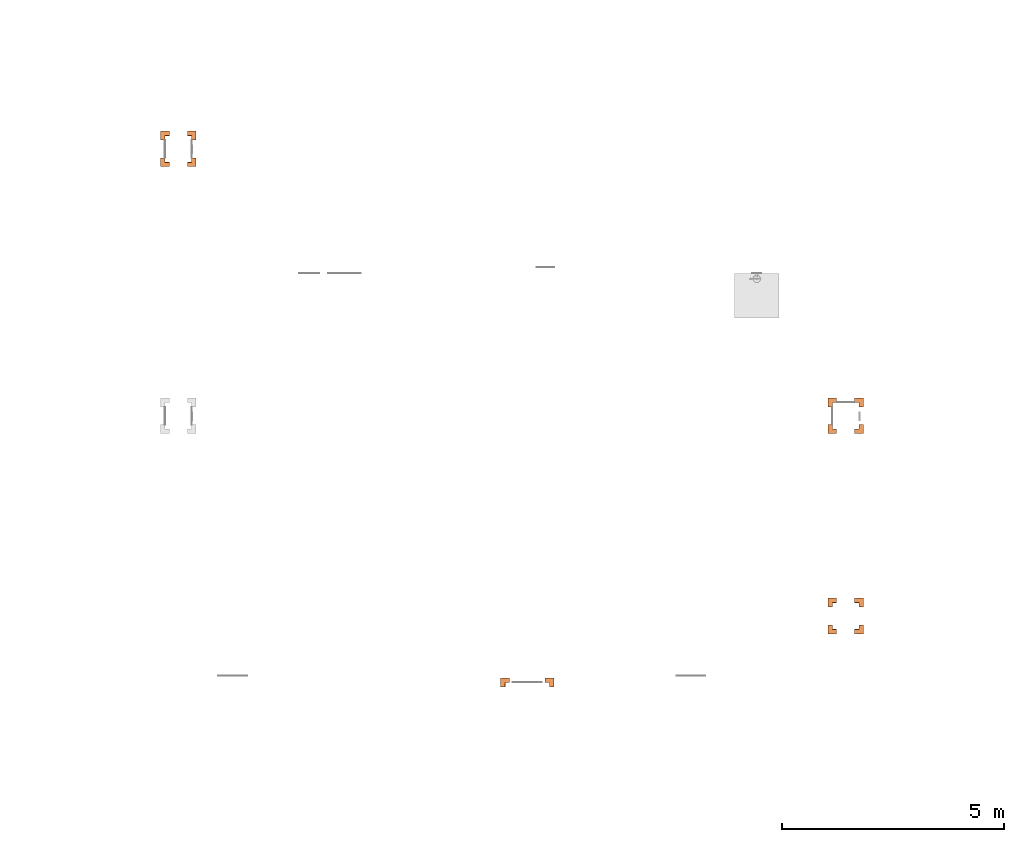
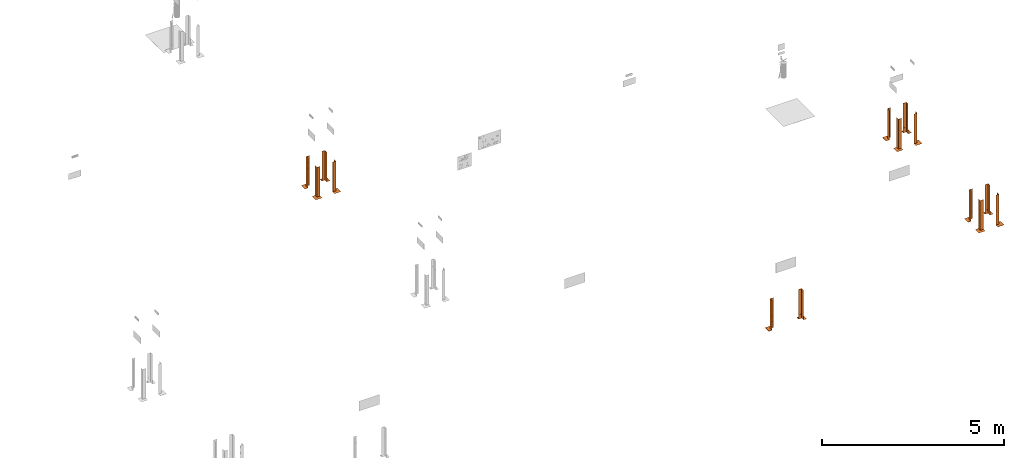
# One storey, part 17 of 119: 14 proxies.
"""IFC2X3 building model written with IfcOpenShell, lengths in metres."""

from ifc_helpers import new_model, entity, si_unit, converted_unit, derived_unit, direction, frame, origin, place, context, subcontext, project, spatial, faceted_brep, source, transform, mapped, material, material_list, type_object, type_shapes, element, save


model = new_model("IFC2X3")

# Units and contexts
model_context = context("Model", 3, precision=1e-05, world=origin(), true_north=direction((6.12303176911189e-17, 1.0)))
body_context = subcontext(model_context, "Body", "Model", "MODEL_VIEW")
ifc_project = project(units=[si_unit("LENGTHUNIT", "METRE"), si_unit("AREAUNIT", "SQUARE_METRE"), si_unit("VOLUMEUNIT", "CUBIC_METRE"), converted_unit("PLANEANGLEUNIT", "DEGREE", entity("IfcRatioMeasure", 0.0174532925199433), si_unit("PLANEANGLEUNIT", "RADIAN"), dimensions=[0, 0, 0, 0, 0, 0, 0]), si_unit("MASSUNIT", "GRAM", prefix="KILO"), derived_unit("MASSDENSITYUNIT", [(si_unit("MASSUNIT", "GRAM", prefix="KILO"), 1), (si_unit("LENGTHUNIT", "METRE"), -3)]), derived_unit("MOMENTOFINERTIAUNIT", [(si_unit("LENGTHUNIT", "METRE"), 4)]), si_unit("TIMEUNIT", "SECOND"), si_unit("FREQUENCYUNIT", "HERTZ"), si_unit("THERMODYNAMICTEMPERATUREUNIT", "DEGREE_CELSIUS"), derived_unit("THERMALTRANSMITTANCEUNIT", [(si_unit("MASSUNIT", "GRAM", prefix="KILO"), 1), (si_unit("THERMODYNAMICTEMPERATUREUNIT", "KELVIN"), -1), (si_unit("TIMEUNIT", "SECOND"), -3)]), derived_unit("VOLUMETRICFLOWRATEUNIT", [(si_unit("LENGTHUNIT", "METRE"), 3), (si_unit("TIMEUNIT", "SECOND"), -1)]), si_unit("ELECTRICCURRENTUNIT", "AMPERE"), si_unit("ELECTRICVOLTAGEUNIT", "VOLT"), si_unit("POWERUNIT", "WATT"), si_unit("FORCEUNIT", "NEWTON", prefix="KILO"), si_unit("ILLUMINANCEUNIT", "LUX"), si_unit("LUMINOUSFLUXUNIT", "LUMEN"), si_unit("LUMINOUSINTENSITYUNIT", "CANDELA"), derived_unit("USERDEFINED", [(si_unit("MASSUNIT", "GRAM", prefix="KILO"), -1), (si_unit("LENGTHUNIT", "METRE"), -2), (si_unit("TIMEUNIT", "SECOND"), 3), (si_unit("LUMINOUSFLUXUNIT", "LUMEN"), 1)]), derived_unit("LINEARVELOCITYUNIT", [(si_unit("LENGTHUNIT", "METRE"), 1), (si_unit("TIMEUNIT", "SECOND"), -1)]), si_unit("PRESSUREUNIT", "PASCAL"), derived_unit("USERDEFINED", [(si_unit("LENGTHUNIT", "METRE"), -2), (si_unit("MASSUNIT", "GRAM", prefix="KILO"), 1), (si_unit("TIMEUNIT", "SECOND"), -2)]), derived_unit("LINEARFORCEUNIT", [(si_unit("MASSUNIT", "GRAM", prefix="KILO"), 1), (si_unit("LENGTHUNIT", "METRE"), 1), (si_unit("TIMEUNIT", "SECOND"), -2), (si_unit("LENGTHUNIT", "METRE"), -1)]), derived_unit("PLANARFORCEUNIT", [(si_unit("MASSUNIT", "GRAM", prefix="KILO"), 1), (si_unit("LENGTHUNIT", "METRE"), 1), (si_unit("TIMEUNIT", "SECOND"), -2), (si_unit("LENGTHUNIT", "METRE"), -2)])], contexts=[model_context])

# Site, building, storey
site_placement = place(None, origin())
site = spatial("IfcSite", under=ifc_project, at=site_placement, Name="Default", CompositionType="ELEMENT")
building_placement = place(site_placement, origin())
building = spatial("IfcBuilding", under=site, at=building_placement, CompositionType="ELEMENT")
storey_placement = place(building_placement, origin())
storey = spatial("IfcBuildingStorey", under=building, at=storey_placement, Name="PAV. 01 - TÉRREO", CompositionType="ELEMENT", Elevation=0.0)

# Proxies
ifc_material_1 = material(Name="Plastico Amarelo")
ifc_material_2 = material(Name="Plastico Preto")
ifc_material_3 = material(Name="O_01_amarelo")
ifc_material_4 = material(Name="O_01_Preto")
ifc_material_list_1 = material_list([ifc_material_1, ifc_material_2, ifc_material_3, ifc_material_4])
ifc_material_list_2 = material_list([ifc_material_3, ifc_material_4, ifc_material_1])
building_element_proxy_type = type_object("IfcBuildingElementProxyType", Name="Indicação de Obstáculos:Indicador - O01 - Amarelo (ambiente interno)", PredefinedType="NOTDEFINED", material=ifc_material_list_2)
shared_shape = source(origin(), body_context, "Body", "Brep", [
    faceted_brep([(0.1, -0.0499999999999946, 0.000999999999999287), (0.0499999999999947, -0.1, 0.000999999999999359), (0.1, -0.1, 0.000999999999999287), (0.1, -0.0499999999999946, 0.0), (0.1, -0.1, 0.0), (0.0499999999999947, -0.1, 0.0)], [[[0, 1, 2]], [[3, 4, 5]], [[0, 2, 4, 3]], [[1, 0, 3, 5]], [[2, 1, 5, 4]]]),
    faceted_brep([(0.100000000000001, 0.0, 0.000999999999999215), (0.0, -0.1, 0.000999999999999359), (0.049999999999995, -0.1, 0.000999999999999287), (0.100000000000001, -0.0499999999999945, 0.000999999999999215), (0.100000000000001, 0.0, 0.0), (0.100000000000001, -0.0499999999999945, 0.0), (0.049999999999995, -0.1, 0.0), (0.0, -0.1, 0.0)], [[[0, 1, 2, 3]], [[4, 5, 6, 7]], [[0, 3, 5, 4]], [[1, 0, 4, 7]], [[3, 2, 6, 5]], [[2, 1, 7, 6]]]),
    faceted_brep([(0.049999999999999, 0.0, 0.000999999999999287), (-0.0500000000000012, -0.0999999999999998, 0.000999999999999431), (0.0, -0.1, 0.000999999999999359), (0.0999999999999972, 0.0, 0.000999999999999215), (0.049999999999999, 0.0, 0.0), (0.0999999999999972, 0.0, 0.0), (0.0, -0.1, 0.0), (-0.0500000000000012, -0.0999999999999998, 0.0)], [[[0, 1, 2, 3]], [[4, 5, 6, 7]], [[1, 0, 4, 7]], [[3, 2, 6, 5]], [[2, 1, 7, 6]], [[0, 3, 5, 4]]]),
    faceted_brep([(-0.0999999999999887, -0.0999999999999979, 0.000999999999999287), (-0.0499999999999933, -0.0999999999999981, 0.000999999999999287), (0.0499999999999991, 0.0, 0.000999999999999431), (0.0, 0.0, 0.000999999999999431), (-0.0999999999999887, -0.0999999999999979, 0.0), (0.0, 0.0, 0.0), (0.049999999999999, 0.0, 0.0), (-0.0499999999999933, -0.0999999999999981, 0.0)], [[[0, 1, 2, 3]], [[4, 5, 6, 7]], [[0, 3, 5, 4]], [[2, 1, 7, 6]], [[3, 2, 6, 5]], [[1, 0, 4, 7]]]),
    faceted_brep([(0.0, 0.0500000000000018, 0.000999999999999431), (-0.0999999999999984, -0.0500000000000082, 0.000999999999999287), (-0.099999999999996, -0.100000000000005, 0.000999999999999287), (0.0, 0.0, 0.000999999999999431), (0.0, 0.0500000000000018, 0.0), (0.0, 0.0, 0.0), (-0.099999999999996, -0.100000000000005, 0.0), (-0.0999999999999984, -0.0500000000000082, 0.0)], [[[0, 1, 2, 3]], [[4, 5, 6, 7]], [[0, 3, 5, 4]], [[1, 0, 4, 7]], [[2, 1, 7, 6]], [[3, 2, 6, 5]]]),
    faceted_brep([(-0.0999999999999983, 0.0499999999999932, 0.000999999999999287), (-0.0499999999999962, 0.1, 0.000999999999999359), (-0.100000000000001, 0.1, 0.000999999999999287), (-0.0999999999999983, 0.0499999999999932, 0.0), (-0.100000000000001, 0.1, 0.0), (-0.0499999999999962, 0.1, 0.0)], [[[0, 1, 2]], [[3, 4, 5]], [[0, 2, 4, 3]], [[1, 0, 3, 5]], [[2, 1, 5, 4]]]),
    faceted_brep([(-0.0999999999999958, 0.0, 0.000999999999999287), (0.0, 0.1, 0.000999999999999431), (-0.0499999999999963, 0.1, 0.000999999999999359), (-0.0999999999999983, 0.0499999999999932, 0.000999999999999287), (-0.0999999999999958, 0.0, 0.0), (-0.0999999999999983, 0.0499999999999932, 0.0), (-0.0499999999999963, 0.1, 0.0), (0.0, 0.1, 0.0)], [[[0, 1, 2, 3]], [[4, 5, 6, 7]], [[0, 3, 5, 4]], [[1, 0, 4, 7]], [[3, 2, 6, 5]], [[2, 1, 7, 6]]]),
    faceted_brep([(0.0, 0.050000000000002, 0.000999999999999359), (0.0, 0.1, 0.000999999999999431), (-0.0999999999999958, 0.0, 0.000999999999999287), (-0.0999999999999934, -0.0500000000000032, 0.000999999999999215), (0.0, 0.0500000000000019, 0.0), (-0.0999999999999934, -0.0500000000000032, 0.0), (-0.0999999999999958, 0.0, 0.0), (0.0, 0.1, 0.0)], [[[0, 1, 2, 3]], [[4, 5, 6, 7]], [[1, 0, 4, 7]], [[2, 1, 7, 6]], [[0, 3, 5, 4]], [[3, 2, 6, 5]]]),
    faceted_brep([(0.00200000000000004, 0.1, 1.0), (0.002, 0.00199999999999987, 0.902000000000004), (0.002, 0.00199999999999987, 0.802000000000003), (0.00200000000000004, 0.1, 0.900000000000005), (0.0, 0.1, 0.900000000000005), (0.0, 0.0, 0.800000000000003), (0.0, 0.0, 0.900000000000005), (0.0, 0.1, 1.0)], [[[0, 1, 2, 3]], [[4, 5, 6, 7]], [[4, 3, 2, 5]], [[1, 6, 5, 2]], [[6, 1, 0, 7]], [[3, 4, 7, 0]]]),
    faceted_brep([(0.00200000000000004, 0.1, 0.800000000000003), (0.002, 0.00199999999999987, 0.702000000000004), (0.002, 0.00199999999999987, 0.602000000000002), (0.00200000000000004, 0.1, 0.700000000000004), (0.0, 0.1, 0.700000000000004), (0.0, 0.0, 0.600000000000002), (0.0, 0.0, 0.700000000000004), (0.0, 0.1, 0.800000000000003)], [[[0, 1, 2, 3]], [[4, 5, 6, 7]], [[4, 3, 2, 5]], [[1, 6, 5, 2]], [[6, 1, 0, 7]], [[3, 4, 7, 0]]]),
    faceted_brep([(0.00200000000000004, 0.1, 0.600000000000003), (0.002, 0.00199999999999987, 0.502000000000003), (0.002, 0.00199999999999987, 0.402000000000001), (0.00200000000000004, 0.1, 0.500000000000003), (0.0, 0.1, 0.500000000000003), (0.0, 0.0, 0.400000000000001), (0.0, 0.0, 0.500000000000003), (0.0, 0.1, 0.600000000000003)], [[[0, 1, 2, 3]], [[4, 5, 6, 7]], [[4, 3, 2, 5]], [[1, 6, 5, 2]], [[6, 1, 0, 7]], [[3, 4, 7, 0]]]),
    faceted_brep([(0.00200000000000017, 0.0999999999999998, 0.400000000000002), (0.00200000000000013, 0.0019999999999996, 0.302000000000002), (0.00200000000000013, 0.0019999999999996, 0.202), (0.00200000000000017, 0.0999999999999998, 0.300000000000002), (0.0, 0.0999999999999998, 0.300000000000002), (0.0, 0.0, 0.2), (0.0, 0.0, 0.300000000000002), (0.0, 0.0999999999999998, 0.400000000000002)], [[[0, 1, 2, 3]], [[4, 5, 6, 7]], [[4, 3, 2, 5]], [[1, 6, 5, 2]], [[6, 1, 0, 7]], [[3, 4, 7, 0]]]),
    faceted_brep([(0.000500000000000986, 0.1, 0.900000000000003), (0.000500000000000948, 0.000499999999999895, 0.800500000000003), (0.000500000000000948, 0.00049999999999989, 0.700500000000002), (0.000500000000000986, 0.1, 0.800000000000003), (0.0, 0.1, 0.800000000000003), (0.0, 0.0, 0.700000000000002), (0.0, 0.0, 0.800000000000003), (0.0, 0.1, 0.900000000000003)], [[[0, 1, 2, 3]], [[4, 5, 6, 7]], [[4, 3, 2, 5]], [[1, 6, 5, 2]], [[6, 1, 0, 7]], [[3, 4, 7, 0]]]),
    faceted_brep([(0.000500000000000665, 0.1, 0.700000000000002), (0.000500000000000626, 0.000499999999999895, 0.600500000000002), (0.000500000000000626, 0.00049999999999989, 0.500500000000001), (0.000500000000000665, 0.1, 0.600000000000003), (0.0, 0.1, 0.600000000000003), (0.0, 0.0, 0.500000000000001), (0.0, 0.0, 0.600000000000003), (0.0, 0.1, 0.700000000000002)], [[[0, 1, 2, 3]], [[4, 5, 6, 7]], [[4, 3, 2, 5]], [[1, 6, 5, 2]], [[6, 1, 0, 7]], [[3, 4, 7, 0]]]),
    faceted_brep([(0.000500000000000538, 0.0999999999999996, 0.500000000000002), (0.000500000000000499, 0.000499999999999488, 0.400500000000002), (0.000500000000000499, 0.000499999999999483, 0.3005), (0.000500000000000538, 0.0999999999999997, 0.400000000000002), (0.0, 0.0999999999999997, 0.400000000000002), (0.0, 0.0, 0.3), (0.0, 0.0, 0.400000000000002), (0.0, 0.0999999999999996, 0.500000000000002)], [[[0, 1, 2, 3]], [[4, 5, 6, 7]], [[4, 3, 2, 5]], [[1, 6, 5, 2]], [[6, 1, 0, 7]], [[3, 4, 7, 0]]]),
    faceted_brep([(0.00499999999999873, 0.00499999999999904, 1.0), (0.00499999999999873, 0.00499999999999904, 0.904999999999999), (0.00499999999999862, 0.0999999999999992, 1.0), (0.0, 0.0, 0.899999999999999), (0.0, 0.0, 1.0), (0.0, 0.0999999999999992, 1.0)], [[[0, 1, 2]], [[3, 4, 5]], [[4, 0, 2, 5]], [[5, 2, 1, 3]], [[0, 4, 3, 1]]]),
    faceted_brep([(0.00499999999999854, 0.00499999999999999, 1.0), (0.0999999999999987, 0.00499999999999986, 1.0), (0.00499999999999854, 0.00499999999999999, 0.904999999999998), (0.0, 0.0, 0.899999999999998), (0.0999999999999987, 0.0, 1.0), (0.0, 0.0, 1.0)], [[[0, 1, 2]], [[3, 4, 5]], [[5, 4, 1, 0]], [[4, 3, 2, 1]], [[0, 2, 3, 5]]]),
    faceted_brep([(0.0999999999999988, 0.000499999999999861, 0.900000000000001), (0.0999999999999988, 0.000499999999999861, 0.800000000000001), (0.000499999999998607, 0.000499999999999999, 0.7005), (0.000499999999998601, 0.000499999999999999, 0.800500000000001), (0.0999999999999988, 0.0, 0.800000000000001), (0.0999999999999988, 0.0, 0.900000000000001), (0.0, 0.0, 0.800000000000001), (0.0, 0.0, 0.7)], [[[0, 1, 2, 3]], [[4, 5, 6, 7]], [[4, 7, 2, 1]], [[3, 2, 7, 6]], [[6, 5, 0, 3]], [[1, 0, 5, 4]]]),
    faceted_brep([(0.0999999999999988, 0.000499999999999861, 0.700000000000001), (0.0999999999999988, 0.000499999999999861, 0.600000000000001), (0.000499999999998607, 0.000499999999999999, 0.5005), (0.000499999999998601, 0.000499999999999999, 0.600500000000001), (0.0999999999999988, 0.0, 0.600000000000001), (0.0999999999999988, 0.0, 0.700000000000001), (0.0, 0.0, 0.600000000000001), (0.0, 0.0, 0.5)], [[[0, 1, 2, 3]], [[4, 5, 6, 7]], [[4, 7, 2, 1]], [[3, 2, 7, 6]], [[6, 5, 0, 3]], [[1, 0, 5, 4]]]),
    faceted_brep([(0.0999999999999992, 0.000499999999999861, 0.500000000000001), (0.0999999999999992, 0.000499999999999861, 0.400000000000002), (0.000499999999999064, 0.000499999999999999, 0.3005), (0.000499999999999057, 0.000499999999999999, 0.400500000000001), (0.0999999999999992, 0.0, 0.400000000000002), (0.0999999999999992, 0.0, 0.500000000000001), (0.0, 0.0, 0.400000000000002), (0.0, 0.0, 0.3)], [[[0, 1, 2, 3]], [[4, 5, 6, 7]], [[4, 7, 2, 1]], [[3, 2, 7, 6]], [[6, 5, 0, 3]], [[1, 0, 5, 4]]]),
    faceted_brep([(0.0999999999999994, 0.00199999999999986, 1.0), (0.0999999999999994, 0.00199999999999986, 0.900000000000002), (0.00199999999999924, 0.002, 0.802), (0.00199999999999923, 0.002, 0.902000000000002), (0.0999999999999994, 0.0, 0.900000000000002), (0.0999999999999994, 0.0, 1.0), (0.0, 0.0, 0.900000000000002), (0.0, 0.0, 0.8)], [[[0, 1, 2, 3]], [[4, 5, 6, 7]], [[4, 7, 2, 1]], [[3, 2, 7, 6]], [[6, 5, 0, 3]], [[1, 0, 5, 4]]]),
    faceted_brep([(0.0999999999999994, 0.00199999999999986, 0.800000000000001), (0.0999999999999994, 0.00199999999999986, 0.700000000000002), (0.00199999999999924, 0.002, 0.602), (0.00199999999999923, 0.002, 0.702000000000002), (0.0999999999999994, 0.0, 0.700000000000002), (0.0999999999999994, 0.0, 0.800000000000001), (0.0, 0.0, 0.700000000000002), (0.0, 0.0, 0.6)], [[[0, 1, 2, 3]], [[4, 5, 6, 7]], [[4, 7, 2, 1]], [[3, 2, 7, 6]], [[6, 5, 0, 3]], [[1, 0, 5, 4]]]),
    faceted_brep([(0.0999999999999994, 0.00199999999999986, 0.600000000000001), (0.0999999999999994, 0.00199999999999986, 0.500000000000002), (0.00199999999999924, 0.002, 0.402), (0.00199999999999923, 0.002, 0.502000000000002), (0.0999999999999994, 0.0, 0.500000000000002), (0.0999999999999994, 0.0, 0.600000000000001), (0.0, 0.0, 0.500000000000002), (0.0, 0.0, 0.4)], [[[0, 1, 2, 3]], [[4, 5, 6, 7]], [[4, 7, 2, 1]], [[3, 2, 7, 6]], [[6, 5, 0, 3]], [[1, 0, 5, 4]]]),
    faceted_brep([(0.0999999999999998, 0.00199999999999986, 0.400000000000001), (0.0999999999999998, 0.00199999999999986, 0.300000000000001), (0.00199999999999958, 0.002, 0.202), (0.00199999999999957, 0.002, 0.302000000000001), (0.0999999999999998, 0.0, 0.300000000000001), (0.0999999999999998, 0.0, 0.400000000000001), (0.0, 0.0, 0.300000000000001), (0.0, 0.0, 0.2)], [[[0, 1, 2, 3]], [[4, 5, 6, 7]], [[4, 7, 2, 1]], [[3, 2, 7, 6]], [[6, 5, 0, 3]], [[1, 0, 5, 4]]]),
    faceted_brep([(0.000500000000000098, 0.1, 0.300000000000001), (0.000500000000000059, 0.000499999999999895, 0.200500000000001), (0.000500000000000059, 0.00049999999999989, 0.1005), (0.000500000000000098, 0.1, 0.200000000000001), (0.0, 0.1, 0.200000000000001), (0.0, 0.0, 0.0999999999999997), (0.0, 0.0, 0.200000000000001), (0.0, 0.1, 0.300000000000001)], [[[0, 1, 2, 3]], [[4, 5, 6, 7]], [[4, 3, 2, 5]], [[1, 6, 5, 2]], [[6, 1, 0, 7]], [[3, 4, 7, 0]]]),
    faceted_brep([(0.00200000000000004, 0.1, 0.200000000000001), (0.002, 0.00199999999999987, 0.102000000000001), (0.002, 0.00199999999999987, 0.00199999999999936), (0.00200000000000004, 0.1, 0.100000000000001), (0.0, 0.1, 0.100000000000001), (0.0, 0.0, 0.0), (0.0, 0.0, 0.100000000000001), (0.0, 0.1, 0.200000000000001)], [[[0, 1, 2, 3]], [[4, 5, 6, 7]], [[4, 3, 2, 5]], [[1, 6, 5, 2]], [[6, 1, 0, 7]], [[3, 4, 7, 0]]]),
    faceted_brep([(0.000500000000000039, 0.1, 0.100000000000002), (0.0005, 0.000499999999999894, 0.000499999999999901), (0.0005, 0.000499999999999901, 0.0), (0.000500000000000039, 0.1, 0.0), (0.0, 0.0, 0.0), (0.0, 0.1, 0.100000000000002), (0.0, 0.1, 0.0)], [[[0, 1, 2, 3]], [[4, 5, 6]], [[3, 6, 5, 0]], [[6, 3, 2, 4]], [[4, 1, 0, 5]], [[1, 4, 2]]]),
    faceted_brep([(0.0999999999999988, 0.000499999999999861, 0.300000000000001), (0.0999999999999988, 0.000499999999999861, 0.200000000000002), (0.000499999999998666, 0.000499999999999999, 0.1005), (0.00049999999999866, 0.000499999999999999, 0.200500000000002), (0.0999999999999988, 0.0, 0.200000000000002), (0.0999999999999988, 0.0, 0.300000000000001), (0.0, 0.0, 0.200000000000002), (0.0, 0.0, 0.1)], [[[0, 1, 2, 3]], [[4, 5, 6, 7]], [[4, 7, 2, 1]], [[3, 2, 7, 6]], [[6, 5, 0, 3]], [[1, 0, 5, 4]]]),
    faceted_brep([(0.0999999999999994, 0.00199999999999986, 0.200000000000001), (0.0999999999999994, 0.00199999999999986, 0.100000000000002), (0.00199999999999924, 0.002, 0.0019999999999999), (0.00199999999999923, 0.002, 0.102000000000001), (0.0999999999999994, 0.0, 0.100000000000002), (0.0999999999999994, 0.0, 0.200000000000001), (0.0, 0.0, 0.100000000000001), (0.0, 0.0, 0.0)], [[[0, 1, 2, 3]], [[4, 5, 6, 7]], [[4, 7, 2, 1]], [[3, 2, 7, 6]], [[6, 5, 0, 3]], [[1, 0, 5, 4]]]),
    faceted_brep([(0.1, 0.000499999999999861, 0.100000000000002), (0.1, 0.000499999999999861, 0.0), (0.000499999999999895, 0.000499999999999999, 0.0), (0.000499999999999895, 0.000499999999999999, 0.000499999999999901), (0.0, 0.0, 0.0), (0.1, 0.0, 0.0), (0.1, 0.0, 0.100000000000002)], [[[0, 1, 2, 3]], [[4, 5, 6]], [[1, 0, 6, 5]], [[5, 4, 2, 1]], [[4, 6, 0, 3]], [[3, 2, 4]]]),
])
type_shapes(building_element_proxy_type, [shared_shape])
proxy_1_placement = place(storey_placement, frame((66.4737997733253, 6.12867701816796, 0.0), z_axis=(0.0, 0.0, 1.0), x_axis=(0.0, 1.0, 0.0)))
element("IfcBuildingElementProxy", 1, at=proxy_1_placement, inside=storey, type_object=building_element_proxy_type, material=ifc_material_list_1, Name="Indicação de Obstáculos:Indicador - O01 - Amarelo (ambiente interno)", ObjectType="Indicação de Obstáculos:Indicador - O01 - Amarelo (ambiente interno)", context=body_context, shape_type="MappedRepresentation", body=[
    mapped(shared_shape, transform((0.0, 0.0, 0.0), scale=1.0)),
])
ifc_material_list_3 = material_list([ifc_material_1, ifc_material_2, ifc_material_3, ifc_material_4])
proxy_2_placement = place(storey_placement, frame((65.8738005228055, 6.12867701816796, 0.0)))
element("IfcBuildingElementProxy", 2, at=proxy_2_placement, inside=storey, type_object=building_element_proxy_type, material=ifc_material_list_3, Name="Indicação de Obstáculos:Indicador - O01 - Amarelo (ambiente interno)", ObjectType="Indicação de Obstáculos:Indicador - O01 - Amarelo (ambiente interno)", context=body_context, shape_type="MappedRepresentation", body=[
    mapped(shared_shape, transform((0.0, 0.0, 0.0), scale=1.0)),
])
ifc_material_list_4 = material_list([ifc_material_1, ifc_material_2, ifc_material_3, ifc_material_4])
proxy_3_placement = place(storey_placement, frame((66.473799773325, 6.72867626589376, 0.0), z_axis=(0.0, 0.0, 1.0), x_axis=(-1.0, 0.0, 0.0)))
element("IfcBuildingElementProxy", 3, at=proxy_3_placement, inside=storey, type_object=building_element_proxy_type, material=ifc_material_list_4, Name="Indicação de Obstáculos:Indicador - O01 - Amarelo (ambiente interno)", ObjectType="Indicação de Obstáculos:Indicador - O01 - Amarelo (ambiente interno)", context=body_context, shape_type="MappedRepresentation", body=[
    mapped(shared_shape, transform((0.0, 0.0, 0.0), scale=1.0)),
])
ifc_material_list_5 = material_list([ifc_material_1, ifc_material_2, ifc_material_3, ifc_material_4])
proxy_4_placement = place(storey_placement, frame((65.8738005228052, 6.72867626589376, 0.0), z_axis=(0.0, 0.0, 1.0), x_axis=(0.0, -1.0, 0.0)))
element("IfcBuildingElementProxy", 4, at=proxy_4_placement, inside=storey, type_object=building_element_proxy_type, material=ifc_material_list_5, Name="Indicação de Obstáculos:Indicador - O01 - Amarelo (ambiente interno)", ObjectType="Indicação de Obstáculos:Indicador - O01 - Amarelo (ambiente interno)", context=body_context, shape_type="MappedRepresentation", body=[
    mapped(shared_shape, transform((0.0, 0.0, 0.0), scale=1.0)),
])
ifc_material_list_6 = material_list([ifc_material_1, ifc_material_2, ifc_material_3, ifc_material_4])
proxy_5_placement = place(storey_placement, frame((81.4737810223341, 0.128684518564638, 0.0), z_axis=(0.0, 0.0, 1.0), x_axis=(0.0, 1.0, 0.0)))
element("IfcBuildingElementProxy", 5, at=proxy_5_placement, inside=storey, type_object=building_element_proxy_type, material=ifc_material_list_6, Name="Indicação de Obstáculos:Indicador - O01 - Amarelo (ambiente interno)", ObjectType="Indicação de Obstáculos:Indicador - O01 - Amarelo (ambiente interno)", context=body_context, shape_type="MappedRepresentation", body=[
    mapped(shared_shape, transform((0.0, 0.0, 0.0), scale=1.0)),
])
ifc_material_list_7 = material_list([ifc_material_1, ifc_material_2, ifc_material_3, ifc_material_4])
proxy_6_placement = place(storey_placement, frame((80.8737817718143, 0.128684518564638, 0.0)))
element("IfcBuildingElementProxy", 6, at=proxy_6_placement, inside=storey, type_object=building_element_proxy_type, material=ifc_material_list_7, Name="Indicação de Obstáculos:Indicador - O01 - Amarelo (ambiente interno)", ObjectType="Indicação de Obstáculos:Indicador - O01 - Amarelo (ambiente interno)", context=body_context, shape_type="MappedRepresentation", body=[
    mapped(shared_shape, transform((0.0, 0.0, 0.0), scale=1.0)),
])
ifc_material_list_8 = material_list([ifc_material_1, ifc_material_2, ifc_material_3, ifc_material_4])
proxy_7_placement = place(storey_placement, frame((81.4737810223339, 0.728683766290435, 0.0), z_axis=(0.0, 0.0, 1.0), x_axis=(-1.0, 0.0, 0.0)))
element("IfcBuildingElementProxy", 7, at=proxy_7_placement, inside=storey, type_object=building_element_proxy_type, material=ifc_material_list_8, Name="Indicação de Obstáculos:Indicador - O01 - Amarelo (ambiente interno)", ObjectType="Indicação de Obstáculos:Indicador - O01 - Amarelo (ambiente interno)", context=body_context, shape_type="MappedRepresentation", body=[
    mapped(shared_shape, transform((0.0, 0.0, 0.0), scale=1.0)),
])
ifc_material_list_9 = material_list([ifc_material_1, ifc_material_2, ifc_material_3, ifc_material_4])
proxy_8_placement = place(storey_placement, frame((80.8737817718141, 0.728683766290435, 0.0), z_axis=(0.0, 0.0, 1.0), x_axis=(0.0, -1.0, 0.0)))
element("IfcBuildingElementProxy", 8, at=proxy_8_placement, inside=storey, type_object=building_element_proxy_type, material=ifc_material_list_9, Name="Indicação de Obstáculos:Indicador - O01 - Amarelo (ambiente interno)", ObjectType="Indicação de Obstáculos:Indicador - O01 - Amarelo (ambiente interno)", context=body_context, shape_type="MappedRepresentation", body=[
    mapped(shared_shape, transform((0.0, 0.0, 0.0), scale=1.0)),
])
ifc_material_list_10 = material_list([ifc_material_1, ifc_material_2, ifc_material_3, ifc_material_4])
proxy_9_placement = place(storey_placement, frame((81.4737810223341, -4.37130985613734, 0.0), z_axis=(0.0, 0.0, 1.0), x_axis=(0.0, 1.0, 0.0)))
element("IfcBuildingElementProxy", 9, at=proxy_9_placement, inside=storey, type_object=building_element_proxy_type, material=ifc_material_list_10, Name="Indicação de Obstáculos:Indicador - O01 - Amarelo (ambiente interno)", ObjectType="Indicação de Obstáculos:Indicador - O01 - Amarelo (ambiente interno)", context=body_context, shape_type="MappedRepresentation", body=[
    mapped(shared_shape, transform((0.0, 0.0, 0.0), scale=1.0)),
])
ifc_material_list_11 = material_list([ifc_material_1, ifc_material_2, ifc_material_3, ifc_material_4])
proxy_10_placement = place(storey_placement, frame((80.8737817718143, -4.37130985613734, 0.0)))
element("IfcBuildingElementProxy", 10, at=proxy_10_placement, inside=storey, type_object=building_element_proxy_type, material=ifc_material_list_11, Name="Indicação de Obstáculos:Indicador - O01 - Amarelo (ambiente interno)", ObjectType="Indicação de Obstáculos:Indicador - O01 - Amarelo (ambiente interno)", context=body_context, shape_type="MappedRepresentation", body=[
    mapped(shared_shape, transform((0.0, 0.0, 0.0), scale=1.0)),
])
ifc_material_list_12 = material_list([ifc_material_1, ifc_material_2, ifc_material_3, ifc_material_4])
proxy_11_placement = place(storey_placement, frame((81.4737810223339, -3.77131060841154, 0.0), z_axis=(0.0, 0.0, 1.0), x_axis=(-1.0, 0.0, 0.0)))
element("IfcBuildingElementProxy", 11, at=proxy_11_placement, inside=storey, type_object=building_element_proxy_type, material=ifc_material_list_12, Name="Indicação de Obstáculos:Indicador - O01 - Amarelo (ambiente interno)", ObjectType="Indicação de Obstáculos:Indicador - O01 - Amarelo (ambiente interno)", context=body_context, shape_type="MappedRepresentation", body=[
    mapped(shared_shape, transform((0.0, 0.0, 0.0), scale=1.0)),
])
ifc_material_list_13 = material_list([ifc_material_1, ifc_material_2, ifc_material_3, ifc_material_4])
proxy_12_placement = place(storey_placement, frame((80.8737817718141, -3.77131060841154, 0.0), z_axis=(0.0, 0.0, 1.0), x_axis=(0.0, -1.0, 0.0)))
element("IfcBuildingElementProxy", 12, at=proxy_12_placement, inside=storey, type_object=building_element_proxy_type, material=ifc_material_list_13, Name="Indicação de Obstáculos:Indicador - O01 - Amarelo (ambiente interno)", ObjectType="Indicação de Obstáculos:Indicador - O01 - Amarelo (ambiente interno)", context=body_context, shape_type="MappedRepresentation", body=[
    mapped(shared_shape, transform((0.0, 0.0, 0.0), scale=1.0)),
])
ifc_material_list_14 = material_list([ifc_material_1, ifc_material_2, ifc_material_3, ifc_material_4])
proxy_13_placement = place(storey_placement, frame((74.5187892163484, -5.56159136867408, 0.0), z_axis=(0.0, 0.0, 1.0), x_axis=(-1.0, 0.0, 0.0)))
element("IfcBuildingElementProxy", 13, at=proxy_13_placement, inside=storey, type_object=building_element_proxy_type, material=ifc_material_list_14, Name="Indicação de Obstáculos:Indicador - O01 - Amarelo (ambiente interno)", ObjectType="Indicação de Obstáculos:Indicador - O01 - Amarelo (ambiente interno)", context=body_context, shape_type="MappedRepresentation", body=[
    mapped(shared_shape, transform((0.0, 0.0, 0.0), scale=1.0)),
])
ifc_material_list_15 = material_list([ifc_material_1, ifc_material_2, ifc_material_3, ifc_material_4])
proxy_14_placement = place(storey_placement, frame((73.5187899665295, -5.56159136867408, 0.0), z_axis=(0.0, 0.0, 1.0), x_axis=(0.0, -1.0, 0.0)))
element("IfcBuildingElementProxy", 14, at=proxy_14_placement, inside=storey, type_object=building_element_proxy_type, material=ifc_material_list_15, Name="Indicação de Obstáculos:Indicador - O01 - Amarelo (ambiente interno)", ObjectType="Indicação de Obstáculos:Indicador - O01 - Amarelo (ambiente interno)", context=body_context, shape_type="MappedRepresentation", body=[
    mapped(shared_shape, transform((0.0, 0.0, 0.0), scale=1.0)),
])

save(model, "model.ifc")
